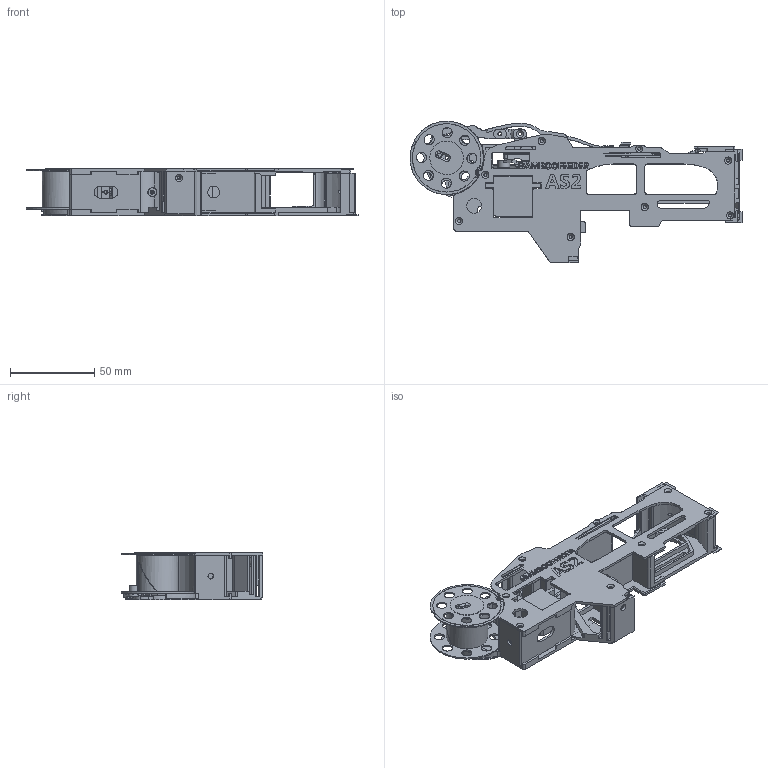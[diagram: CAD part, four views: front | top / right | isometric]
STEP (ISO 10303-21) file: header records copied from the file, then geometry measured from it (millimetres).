
FILE_DESCRIPTION (( 'STEP AP203' ), '1' );
FILE_NAME ('PPBF-AS2-24-V1.0-ASM01.STEP', '2026-03-18T04:37:14', ( '' ), ( '' ), 'SwSTEP 2.0', 'SolidWorks 2020', '' );
FILE_SCHEMA (( 'CONFIG_CONTROL_DESIGN' ));
Length unit declared in the file: millimetre
Products named in the file (16): PPBF-AS2-Base_24-V1.0; PPBF-AS2-SpoolPawlPullrodConnector-V1.0; PPBF-AS2-Spool_24-V1.0; PPBF-AS2-SpoolPawlPullrod-V1.0; PPBF-AS2-Cover_24-V1.0; PPBF-AS2-SpoolRing_24-V1.0; PPBF-AS2-ServoAdvancer-V1.0; PPBF-AS2-LabelCard_24-V1.0; PPBF-AS2-SpoolWasher-V1.0; PPBF-AS2-Pushrod_24-V1.0; PPBF-AS2-24-V1.0-ASM01; PPBF-AS2-TopSpring-V1.0; ServoArm_Cut; Servo-SG90; PPBF-AS2-TopClampingPlate_24-V1.0; PPBF-AS2-SpoolGear_24-V1.0
Assembly tree (15 placements, depth 2):
  PPBF-AS2-24-V1.0-ASM01
    PPBF-AS2-Base_24-V1.0
    PPBF-AS2-Cover_24-V1.0
    ServoArm_Cut
    Servo-SG90
    PPBF-AS2-ServoAdvancer-V1.0
    PPBF-AS2-Pushrod_24-V1.0
    PPBF-AS2-SpoolPawlPullrodConnector-V1.0
    PPBF-AS2-SpoolPawlPullrod-V1.0
    PPBF-AS2-SpoolWasher-V1.0
    PPBF-AS2-SpoolGear_24-V1.0
    PPBF-AS2-Spool_24-V1.0
    PPBF-AS2-SpoolRing_24-V1.0
    PPBF-AS2-TopSpring-V1.0
    PPBF-AS2-TopClampingPlate_24-V1.0
    PPBF-AS2-LabelCard_24-V1.0
Bounding box: 197.31 x 84.1 x 28.1 mm (x, y, z)
Volume: 79761.2 mm3; surface area: 88043 mm2
Topology: 16 solids, 16 shells, 2088 faces, 5854 edges, 3843 vertices
Faces by surface type: plane 1148, cylinder 716, bspline 104, cone 98, torus 18, sphere 4
Full cylindrical faces by diameter (mm): 1 x3, 1.75 x5, 1.8 x1, 1.85 x11, 1.9 x1, 2 x1, 2.1 x1, 2.2 x6, 2.25 x1, 2.3 x7, 2.4 x3, 3.5 x2, 3.9 x1, 4.1 x1, 4.5 x1, 5 x2, 5.2 x1, 5.3 x1, 6 x16, 6.85 x1, 7 x2, 7.2 x1, 9 x1, 12 x1, 12.838 x1, 16.038 x1, 16.8 x1, 19.9 x1, 20 x1, 24.5 x1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
Entity records: 75136 total; most frequent: CARTESIAN_POINT 19782, ORIENTED_EDGE 11424, DIRECTION 10822, EDGE_CURVE 5712, VERTEX_POINT 3809, LINE 3746, VECTOR 3746, AXIS2_PLACEMENT_3D 3538
